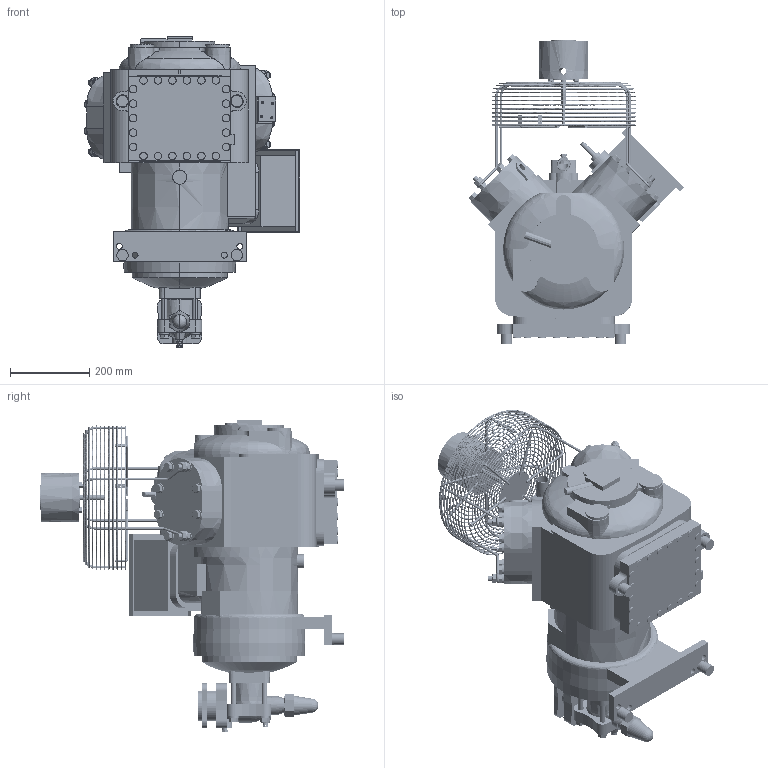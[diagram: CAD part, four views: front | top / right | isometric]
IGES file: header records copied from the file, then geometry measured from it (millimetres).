
Start section:  PTC IGES file: 06e41eh0lf_sv_6fn.igs
Global section: file name: 06e41eh0lf_sv_6fn.igs; native system: Pro/ENGINEER by Parametric Technology Corporation; preprocessor: 2003161; author: girish.c; organization: Unknown; date: 040123.180844; units: inch
Bounding box: 543.72 x 770.07 x 787.7 mm (x, y, z)
Surface area: 2327771.3 mm2 (no closed solid volume)
Topology: 0 solids, 0 shells, 1331 faces, 6331 edges, 6329 vertices
Faces by surface type: revolution 777, bspline 554
